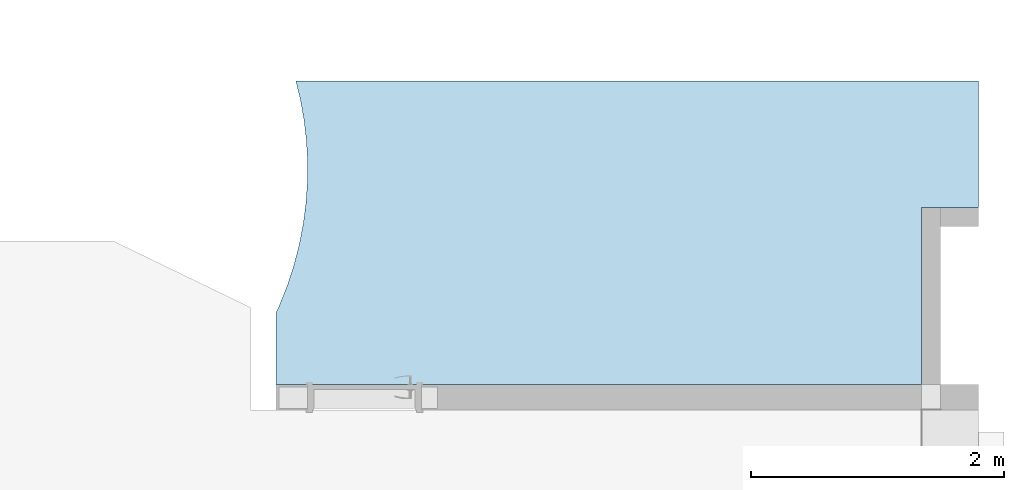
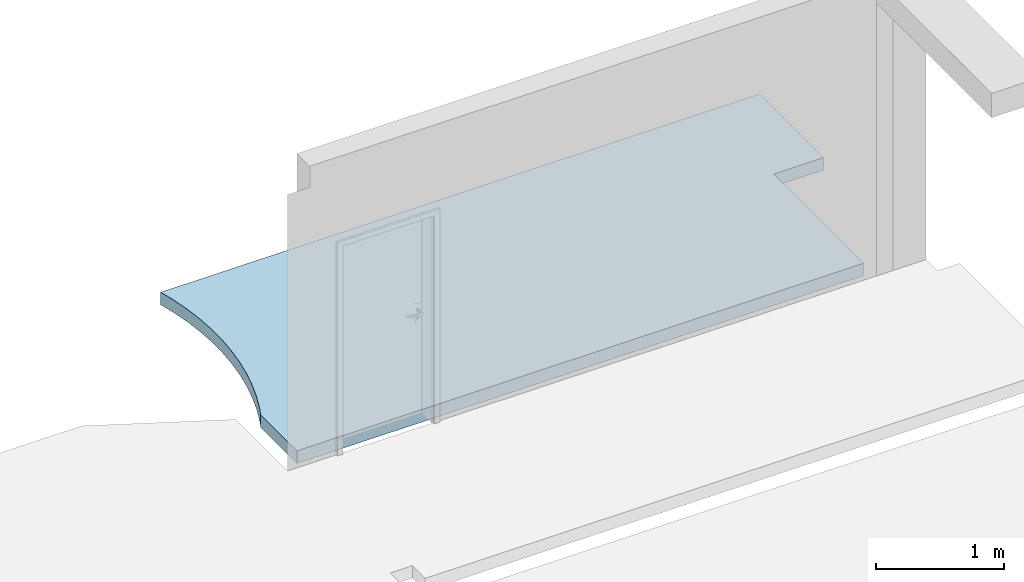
# One storey, part 4 of 9: 1 slab.
"""IFC4 building model written with IfcOpenShell, lengths in millimetres."""

import ifcopenshell
import ifcopenshell.guid

model = None  # the IFC model being written
_history = None  # IfcOwnerHistory: only IFC2X3 demands one
_inside = {}  # id of a spatial element -> (the spatial element, [elements in it])
_under = {}  # id of a project, library or spatial element -> (it, [spatial elements below it])
_declared = {}  # id of a project -> (the project, [libraries it declares])
_typed = {}  # id of a type object -> (the type object, [elements of that type])
_made_of = {}  # id of a material, layer set ... -> (it, [elements and type objects made of it])


def new_model(schema):
    """Start an empty IFC model of exactly this schema.

    Asked for "IFC4X3", IfcOpenShell would pick the latest addendum, in which some entities
    have other attributes; the version numbers below select the first issue.
    IFC2X3 requires an IfcOwnerHistory on every rooted entity: one is made here for all.
    """
    global model, _history
    if schema == "IFC4X3":
        model = ifcopenshell.file(schema_version=(4, 3, 0, 0))
    else:
        model = ifcopenshell.file(schema=schema)
    _inside.clear()
    _under.clear()
    _declared.clear()
    _typed.clear()
    _made_of.clear()
    _history = None
    if model.schema == "IFC2X3":
        org = make("IfcOrganization", Name="unknown")
        user = make(
            "IfcPersonAndOrganization",
            ThePerson=make("IfcPerson", FamilyName="unknown"),
            TheOrganization=org,
        )
        app = make(
            "IfcApplication",
            ApplicationDeveloper=org,
            Version="unknown",
            ApplicationFullName="unknown",
            ApplicationIdentifier="unknown",
        )
        _history = make(
            "IfcOwnerHistory",
            OwningUser=user,
            OwningApplication=app,
            ChangeAction="ADDED",
            CreationDate=0,
        )
    return model


def make(cls, **values):
    """One entity of the class cls with the attributes given. An attribute that is None is left unset."""
    return model.create_entity(
        cls, **{name: value for name, value in values.items() if value is not None}
    )


def entity(cls, *values):
    """Any entity or typed value of the class cls, its attributes in the order of the schema. None: left unset."""
    e = model.create_entity(cls)
    for i, value in enumerate(values):
        if value is not None:
            e[i] = value
    return e


def rooted(cls, **values):
    """An entity with a GlobalId (a new one), such as an element, a storey or a relation."""
    return make(cls, GlobalId=ifcopenshell.guid.new(), OwnerHistory=_history, **values)


def si_unit(unit_type, name, prefix=None):
    """IfcSIUnit, for example si_unit("LENGTHUNIT", "METRE", prefix="MILLI")."""
    return make("IfcSIUnit", UnitType=unit_type, Prefix=prefix, Name=name)


def converted_unit(unit_type, name, factor, base, dimensions=None, offset=None):
    """IfcConversionBasedUnit, such as the inch: factor (a typed value) times the base unit."""
    return make(
        "IfcConversionBasedUnit"
        if offset is None
        else "IfcConversionBasedUnitWithOffset",
        ConversionOffset=offset,
        Dimensions=None
        if dimensions is None
        else entity("IfcDimensionalExponents", *dimensions),
        UnitType=unit_type,
        Name=name,
        ConversionFactor=make(
            "IfcMeasureWithUnit", ValueComponent=factor, UnitComponent=base
        ),
    )


def derived_unit(unit_type, elements):
    """IfcDerivedUnit: a product of units, each with its exponent."""
    return make(
        "IfcDerivedUnit",
        Elements=[
            make("IfcDerivedUnitElement", Unit=unit, Exponent=power)
            for unit, power in elements
        ],
        UnitType=unit_type,
    )


def assignment(units):
    """IfcUnitAssignment: the units of a project."""
    return None if units is None else make("IfcUnitAssignment", Units=units)


def point(xyz):
    """IfcCartesianPoint."""
    return None if xyz is None else make("IfcCartesianPoint", Coordinates=xyz)


def direction(xyz):
    """IfcDirection."""
    return None if xyz is None else make("IfcDirection", DirectionRatios=xyz)


def frame(location, z_axis=None, x_axis=None):
    """IfcAxis2Placement3D, a coordinate frame: its origin and axes. An axis left out is left unset."""
    return make(
        "IfcAxis2Placement3D",
        Location=point(location),
        Axis=direction(z_axis),
        RefDirection=direction(x_axis),
    )


def origin_with_axes():
    """The frame at (0, 0, 0) with the z axis (0, 0, 1) and the x axis (1, 0, 0) written out."""
    return frame((0.0, 0.0, 0.0), z_axis=(0.0, 0.0, 1.0), x_axis=(1.0, 0.0, 0.0))


def place(relative_to, where):
    """IfcLocalPlacement: puts the frame where relative to a parent placement (None: the world)."""
    return make(
        "IfcLocalPlacement", PlacementRelTo=relative_to, RelativePlacement=where
    )


def context(
    kind, dimensions, precision=None, world=None, true_north=None, identifier=None
):
    """IfcGeometricRepresentationContext, for example the 3D "Model" context."""
    return make(
        "IfcGeometricRepresentationContext",
        ContextIdentifier=identifier,
        ContextType=kind,
        CoordinateSpaceDimension=dimensions,
        Precision=precision,
        WorldCoordinateSystem=world,
        TrueNorth=true_north,
    )


def subcontext(parent, identifier, kind, view, scale=None):
    """IfcGeometricRepresentationSubContext, for example "Body" below "Model"."""
    return make(
        "IfcGeometricRepresentationSubContext",
        ContextIdentifier=identifier,
        ContextType=kind,
        ParentContext=parent,
        TargetScale=scale,
        TargetView=view,
    )


def project(units=None, contexts=None):
    """IfcProject with its units and contexts."""
    return rooted(
        "IfcProject",
        Name="project",
        RepresentationContexts=contexts,
        UnitsInContext=assignment(units),
    )


def spatial(cls, under=None, at=None, **own):
    """A site, building, storey or space (cls), placed at a placement, below another one or the project."""
    s = rooted(cls, ObjectPlacement=at, **own)
    if under is not None:
        _under.setdefault(under.id(), (under, []))[1].append(s)
    return s


def point_list(points):
    """IfcCartesianPointList2D or 3D."""
    cls = (
        "IfcCartesianPointList2D" if len(points[0]) == 2 else "IfcCartesianPointList3D"
    )
    return make(cls, CoordList=points)


def polygons(points, faces, closed=None, point_numbers=None):
    """IfcPolygonalFaceSet: a face is its outer loop, then its inner loops; points numbered from 1."""
    made = []
    for loops in faces:
        if len(loops) == 1:
            made.append(make("IfcIndexedPolygonalFace", CoordIndex=loops[0]))
        else:
            made.append(
                make(
                    "IfcIndexedPolygonalFaceWithVoids",
                    CoordIndex=loops[0],
                    InnerCoordIndices=loops[1:],
                )
            )
    return make(
        "IfcPolygonalFaceSet",
        Coordinates=point_list(points),
        Closed=closed,
        Faces=made,
        PnIndex=point_numbers,
    )


def shape(context_of_items, identifier, shape_type, items):
    """IfcShapeRepresentation: the items that make up one representation, for example the "Body"."""
    return make(
        "IfcShapeRepresentation",
        ContextOfItems=context_of_items,
        RepresentationIdentifier=identifier,
        RepresentationType=shape_type,
        Items=items,
    )


def material(Name=None, Category=None):
    """IfcMaterial."""
    return make("IfcMaterial", Name=Name, Category=Category)


def constituent(of_material, Name=None, Category=None, fraction=None):
    """IfcMaterialConstituent: one of the materials an element consists of."""
    return make(
        "IfcMaterialConstituent",
        Name=Name,
        Material=of_material,
        Fraction=fraction,
        Category=Category,
    )


def constituent_set(constituents=None, Name=None):
    """IfcMaterialConstituentSet."""
    return make(
        "IfcMaterialConstituentSet", Name=Name, MaterialConstituents=constituents
    )


def made_of(thing, what):
    """Note that an element or type object is made of a material, layer set ...; save() writes the relation."""
    if what is not None:
        _made_of.setdefault(what.id(), (what, []))[1].append(thing)
    return thing


def type_object(cls, material=None, **own):
    """A type object (cls), such as IfcWallType, which elements share."""
    return made_of(rooted(cls, **own), material)


def element(
    cls,
    number,
    at=None,
    inside=None,
    cuts=None,
    type_object=None,
    material=None,
    context=None,
    identifier="Body",
    shape_type=None,
    held_by="IfcProductDefinitionShape",
    body=None,
    shapes=None,
    **own,
):
    """One element of the class cls, such as IfcWall. Its Tag is "e" and its number.

    at: its placement. inside: the storey or other place that contains it. cuts: it is an
    opening in that element (IfcRelVoidsElement). A single representation is given by context,
    identifier, shape_type and body (its items); several are given by shapes. held_by: the class
    of the entity that holds the representations. save() writes the other relations.
    """
    e = rooted(cls, Tag="e%d" % number, ObjectPlacement=at, **own)
    if body is not None:
        shapes = [shape(context, identifier, shape_type, body)]
    if shapes is not None:
        e.Representation = make(held_by, Representations=shapes)
    if inside is not None:
        _inside.setdefault(inside.id(), (inside, []))[1].append(e)
    if cuts is not None:
        rooted(
            "IfcRelVoidsElement", RelatingBuildingElement=cuts, RelatedOpeningElement=e
        )
    if type_object is not None:
        _typed.setdefault(type_object.id(), (type_object, []))[1].append(e)
    return made_of(e, material)


def aggregate(whole, parts):
    """IfcRelAggregates: a whole, such as a stair, and the parts it consists of."""
    return rooted("IfcRelAggregates", RelatingObject=whole, RelatedObjects=parts)


def save(model, path):
    """Write the relations noted so far, then the file.

    IfcRelAggregates (storeys below a building ...), IfcRelContainedInSpatialStructure (elements
    in a storey), IfcRelDefinesByType, IfcRelAssociatesMaterial and IfcRelDeclares: one each for
    every whole, place, type object, material and project.
    """
    for whole, parts in _under.values():
        aggregate(whole, parts)
    for where, things in _inside.values():
        rooted(
            "IfcRelContainedInSpatialStructure",
            RelatedElements=things,
            RelatingStructure=where,
        )
    for kind, things in _typed.values():
        rooted("IfcRelDefinesByType", RelatedObjects=things, RelatingType=kind)
    for what, things in _made_of.values():
        rooted("IfcRelAssociatesMaterial", RelatedObjects=things, RelatingMaterial=what)
    for by, libraries in _declared.values():
        rooted("IfcRelDeclares", RelatingContext=by, RelatedDefinitions=libraries)
    model.write(path)


model = new_model("IFC4")

# Units and contexts
model_context = context("Model", 3, precision=0.01, world=origin_with_axes(), true_north=direction((0.0, 1.0)))
body_context = subcontext(model_context, "Body", "Model", "MODEL_VIEW")
ifc_project = project(units=[si_unit("LENGTHUNIT", "METRE", prefix="MILLI"), si_unit("AREAUNIT", "SQUARE_METRE"), si_unit("VOLUMEUNIT", "CUBIC_METRE"), converted_unit("PLANEANGLEUNIT", "DEGREE", entity("IfcPlaneAngleMeasure", 0.0174532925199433), si_unit("PLANEANGLEUNIT", "RADIAN"), dimensions=[0, 0, 0, 0, 0, 0, 0]), converted_unit("TIMEUNIT", "Year", entity("IfcTimeMeasure", 31557600.0), si_unit("TIMEUNIT", "SECOND"), dimensions=[0, 0, 1, 0, 0, 0, 0]), si_unit("MASSUNIT", "GRAM", prefix="KILO"), si_unit("THERMODYNAMICTEMPERATUREUNIT", "DEGREE_CELSIUS"), si_unit("LUMINOUSINTENSITYUNIT", "LUMEN"), si_unit("ENERGYUNIT", "JOULE", prefix="MEGA"), derived_unit("THERMALCONDUCTANCEUNIT", [(si_unit("POWERUNIT", "WATT"), 1), (si_unit("LENGTHUNIT", "METRE"), -1), (si_unit("THERMODYNAMICTEMPERATUREUNIT", "KELVIN"), -1)]), derived_unit("SPECIFICHEATCAPACITYUNIT", [(si_unit("ENERGYUNIT", "JOULE"), 1), (si_unit("MASSUNIT", "GRAM", prefix="KILO"), -1), (si_unit("THERMODYNAMICTEMPERATUREUNIT", "KELVIN"), -1)]), derived_unit("MASSDENSITYUNIT", [(si_unit("MASSUNIT", "GRAM", prefix="KILO"), 1), (si_unit("VOLUMEUNIT", "CUBIC_METRE"), -1)])], contexts=[model_context])

# Site, building, storey
site_placement = place(None, origin_with_axes())
site = spatial("IfcSite", under=ifc_project, at=site_placement, Name="Exteriér", CompositionType="ELEMENT")
building_placement = place(site_placement, origin_with_axes())
building = spatial("IfcBuilding", under=site, at=building_placement, Name="Univerzitní lezecké centrum", CompositionType="ELEMENT")
storey_placement = place(building_placement, origin_with_axes())
storey = spatial("IfcBuildingStorey", under=building, at=storey_placement, Name="1.NP", CompositionType="ELEMENT", Elevation=0.0)

# Slab
ifc_material_1 = material(Name="Keramická dlažba 30x30")
ifc_constituent_1 = constituent(ifc_material_1, Name="Keramická dlažba 30x30")
ifc_material_2 = material(Name="Lepicí tmel na dlažbu a obklady")
ifc_constituent_2 = constituent(ifc_material_2, Name="Lepicí tmel na dlažbu a obklady")
ifc_material_3 = material(Name="Samonivelační stěrková hmota")
ifc_constituent_3 = constituent(ifc_material_3, Name="Samonivelační stěrková hmota")
ifc_material_4 = material(Name="Betonová mazanina")
ifc_constituent_4 = constituent(ifc_material_4, Name="Betonová mazanina")
ifc_material_5 = material(Name="PE fólie")
ifc_constituent_5 = constituent(ifc_material_5, Name="PE fólie")
ifc_material_6 = material(Name="Akustická izolace - EPS")
ifc_constituent_6 = constituent(ifc_material_6, Name="Akustická izolace - EPS")
ifc_constituent_set = constituent_set(constituents=[ifc_constituent_1, ifc_constituent_2, ifc_constituent_3, ifc_constituent_4, ifc_constituent_5, ifc_constituent_6], Name="!P04 Podlaha v patře - keramická dlažba 30x30")
slab_type = type_object("IfcSlabType", Name="!P04 Podlaha v patře - keramická dlažba 30x30 120", PredefinedType="FLOOR")
slab_placement = place(storey_placement, frame((5057.532610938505, 4399.999973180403, 0.0), z_axis=(0.0, 0.0, 1.0), x_axis=(1.0, 0.0, 0.0)))
element("IfcSlab", 1, at=slab_placement, inside=storey, type_object=slab_type, material=ifc_constituent_set, Name="P03", PredefinedType="FLOOR", context=body_context, shape_type="Tessellation", body=[
    polygons([(4942.537143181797, -2399.519217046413, 0.0), (4942.442440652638, -999.5192207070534, 0.0), (4942.575357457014, -999.5192207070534, 0.0), (5392.319037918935, -999.5192207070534, 0.0), (5392.319037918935, 0.0, 0.0), (0.0, 0.0, 0.0), (35.97096868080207, -145.1210913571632, 0.0), (64.88131148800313, -307.3207028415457, 0.0), (83.84954743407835, -470.9811070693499, 0.0), (92.80511343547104, -635.493476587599, 0.0), (91.71469419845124, -800.2458145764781, 0.0), (80.58234615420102, -964.6252315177, 0.0), (59.44948236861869, -1128.020225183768, 0.0), (28.3947184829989, -1289.822955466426, 0.0), (-12.46641974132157, -1449.431505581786, 0.0), (-62.98192618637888, -1606.252121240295, 0.0), (-122.963879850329, -1759.701419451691, 0.0), (-157.5765118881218, -1834.454989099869, 0.0), (-157.5144389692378, -2399.519217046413, 0.0), (4942.537143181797, -2399.519217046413, -9.999999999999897), (4942.442440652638, -999.5192207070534, -9.999999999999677), (4942.575357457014, -999.5192207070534, -9.999999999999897), (5392.319037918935, -999.5192207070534, -9.999999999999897), (5392.319037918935, 0.0, -9.999999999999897), (0.0, 0.0, -9.999999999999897), (35.97096868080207, -145.1210913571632, -9.999999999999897), (64.88131148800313, -307.3207028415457, -9.999999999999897), (83.84954743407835, -470.9811070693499, -9.999999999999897), (92.80511343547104, -635.493476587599, -9.999999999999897), (91.71469419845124, -800.2458145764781, -9.999999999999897), (80.58234615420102, -964.6252315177, -9.999999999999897), (59.44948236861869, -1128.020225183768, -9.999999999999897), (28.3947184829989, -1289.822955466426, -9.999999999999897), (-12.46641974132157, -1449.431505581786, -9.999999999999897), (-62.98192618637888, -1606.252121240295, -9.999999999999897), (-122.963879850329, -1759.701419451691, -9.999999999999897), (-157.5765118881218, -1834.454989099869, -9.999999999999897), (-157.5144389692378, -2399.519217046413, -9.999999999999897)], [[[1, 2, 3, 4, 5, 6, 7, 8, 9, 10, 11, 12, 13, 14, 15, 16, 17, 18, 19]], [[2, 1, 20, 21]], [[22, 3, 2, 21]], [[3, 22, 23, 4]], [[23, 24, 5, 4]], [[24, 25, 6, 5]], [[25, 26, 7, 6]], [[26, 27, 8, 7]], [[27, 28, 9, 8]], [[28, 29, 10, 9]], [[29, 30, 11, 10]], [[30, 31, 12, 11]], [[31, 32, 13, 12]], [[32, 33, 14, 13]], [[33, 34, 15, 14]], [[34, 35, 16, 15]], [[35, 36, 17, 16]], [[36, 37, 18, 17]], [[37, 38, 19, 18]], [[20, 1, 19, 38]], [[21, 20, 38, 37, 36, 35, 34, 33, 32, 31, 30, 29, 28, 27, 26, 25, 24, 23, 22]]], closed=True),
    polygons([(4942.537143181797, -2399.519217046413, -9.999999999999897), (4942.442440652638, -999.5192207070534, -9.999999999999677), (4942.575357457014, -999.5192207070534, -9.999999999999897), (5392.319037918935, -999.5192207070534, -9.999999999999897), (5392.319037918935, 0.0, -9.999999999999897), (0.0, 0.0, -9.999999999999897), (35.97096868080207, -145.1210913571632, -9.999999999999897), (64.88131148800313, -307.3207028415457, -9.999999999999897), (83.84954743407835, -470.9811070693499, -9.999999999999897), (92.80511343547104, -635.493476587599, -9.999999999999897), (91.71469419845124, -800.2458145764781, -9.999999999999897), (80.58234615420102, -964.6252315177, -9.999999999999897), (59.44948236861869, -1128.020225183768, -9.999999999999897), (28.3947184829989, -1289.822955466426, -9.999999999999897), (-12.46641974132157, -1449.431505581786, -9.999999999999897), (-62.98192618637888, -1606.252121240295, -9.999999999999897), (-122.963879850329, -1759.701419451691, -9.999999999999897), (-157.5765118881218, -1834.454989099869, -9.999999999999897), (-157.5144389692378, -2399.519217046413, -9.999999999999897), (4942.537143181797, -2399.519217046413, -13.00000000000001), (4942.442440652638, -999.5192207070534, -12.99999999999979), (4942.575357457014, -999.5192207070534, -13.00000000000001), (5392.319037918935, -999.5192207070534, -13.00000000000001), (5392.319037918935, 0.0, -13.00000000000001), (0.0, 0.0, -13.00000000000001), (35.97096868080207, -145.1210913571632, -13.00000000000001), (64.88131148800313, -307.3207028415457, -13.00000000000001), (83.84954743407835, -470.9811070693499, -13.00000000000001), (92.80511343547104, -635.493476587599, -13.00000000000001), (91.71469419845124, -800.2458145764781, -13.00000000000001), (80.58234615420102, -964.6252315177, -13.00000000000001), (59.44948236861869, -1128.020225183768, -13.00000000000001), (28.3947184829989, -1289.822955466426, -13.00000000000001), (-12.46641974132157, -1449.431505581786, -13.00000000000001), (-62.98192618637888, -1606.252121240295, -13.00000000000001), (-122.963879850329, -1759.701419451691, -13.00000000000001), (-157.5765118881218, -1834.454989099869, -13.00000000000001), (-157.5144389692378, -2399.519217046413, -13.00000000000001)], [[[1, 2, 3, 4, 5, 6, 7, 8, 9, 10, 11, 12, 13, 14, 15, 16, 17, 18, 19]], [[2, 1, 20, 21]], [[22, 3, 2, 21]], [[3, 22, 23, 4]], [[23, 24, 5, 4]], [[24, 25, 6, 5]], [[25, 26, 7, 6]], [[26, 27, 8, 7]], [[27, 28, 9, 8]], [[28, 29, 10, 9]], [[29, 30, 11, 10]], [[30, 31, 12, 11]], [[31, 32, 13, 12]], [[32, 33, 14, 13]], [[33, 34, 15, 14]], [[34, 35, 16, 15]], [[35, 36, 17, 16]], [[36, 37, 18, 17]], [[37, 38, 19, 18]], [[20, 1, 19, 38]], [[21, 20, 38, 37, 36, 35, 34, 33, 32, 31, 30, 29, 28, 27, 26, 25, 24, 23, 22]]], closed=True),
    polygons([(4942.537143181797, -2399.519217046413, -13.00000000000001), (4942.442440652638, -999.5192207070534, -12.99999999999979), (4942.575357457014, -999.5192207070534, -13.00000000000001), (5392.319037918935, -999.5192207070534, -13.00000000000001), (5392.319037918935, 0.0, -13.00000000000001), (0.0, 0.0, -13.00000000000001), (35.97096868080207, -145.1210913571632, -13.00000000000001), (64.88131148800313, -307.3207028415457, -13.00000000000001), (83.84954743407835, -470.9811070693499, -13.00000000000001), (92.80511343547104, -635.493476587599, -13.00000000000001), (91.71469419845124, -800.2458145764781, -13.00000000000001), (80.58234615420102, -964.6252315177, -13.00000000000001), (59.44948236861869, -1128.020225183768, -13.00000000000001), (28.3947184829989, -1289.822955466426, -13.00000000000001), (-12.46641974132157, -1449.431505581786, -13.00000000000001), (-62.98192618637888, -1606.252121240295, -13.00000000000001), (-122.963879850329, -1759.701419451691, -13.00000000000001), (-157.5765118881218, -1834.454989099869, -13.00000000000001), (-157.5144389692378, -2399.519217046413, -13.00000000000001), (4942.537143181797, -2399.519217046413, -15.9999999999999), (4942.442440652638, -999.5192207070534, -15.9999999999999), (4942.575357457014, -999.5192207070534, -15.9999999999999), (5392.319037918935, -999.5192207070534, -15.9999999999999), (5392.319037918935, 0.0, -15.9999999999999), (0.0, 0.0, -15.9999999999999), (35.97096868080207, -145.1210913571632, -15.9999999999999), (64.88131148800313, -307.3207028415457, -15.9999999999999), (83.84954743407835, -470.9811070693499, -15.9999999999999), (92.80511343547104, -635.493476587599, -15.9999999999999), (91.71469419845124, -800.2458145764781, -15.9999999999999), (80.58234615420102, -964.6252315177, -15.9999999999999), (59.44948236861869, -1128.020225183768, -15.9999999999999), (28.3947184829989, -1289.822955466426, -15.9999999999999), (-12.46641974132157, -1449.431505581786, -15.9999999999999), (-62.98192618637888, -1606.252121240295, -15.9999999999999), (-122.963879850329, -1759.701419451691, -15.9999999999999), (-157.5765118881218, -1834.454989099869, -15.9999999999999), (-157.5144389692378, -2399.519217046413, -15.9999999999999)], [[[1, 2, 3, 4, 5, 6, 7, 8, 9, 10, 11, 12, 13, 14, 15, 16, 17, 18, 19]], [[2, 1, 20, 21]], [[22, 3, 2, 21]], [[3, 22, 23, 4]], [[23, 24, 5, 4]], [[24, 25, 6, 5]], [[25, 26, 7, 6]], [[26, 27, 8, 7]], [[27, 28, 9, 8]], [[28, 29, 10, 9]], [[29, 30, 11, 10]], [[30, 31, 12, 11]], [[31, 32, 13, 12]], [[32, 33, 14, 13]], [[33, 34, 15, 14]], [[34, 35, 16, 15]], [[35, 36, 17, 16]], [[36, 37, 18, 17]], [[37, 38, 19, 18]], [[20, 1, 19, 38]], [[21, 20, 38, 37, 36, 35, 34, 33, 32, 31, 30, 29, 28, 27, 26, 25, 24, 23, 22]]], closed=True),
    polygons([(4942.537143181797, -2399.519217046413, -15.9999999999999), (4942.442440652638, -999.5192207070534, -15.9999999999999), (4942.575357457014, -999.5192207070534, -15.9999999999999), (5392.319037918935, -999.5192207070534, -15.9999999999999), (5392.319037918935, 0.0, -15.9999999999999), (0.0, 0.0, -15.9999999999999), (35.97096868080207, -145.1210913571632, -15.9999999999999), (64.88131148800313, -307.3207028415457, -15.9999999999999), (83.84954743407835, -470.9811070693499, -15.9999999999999), (92.80511343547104, -635.493476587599, -15.9999999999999), (91.71469419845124, -800.2458145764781, -15.9999999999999), (80.58234615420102, -964.6252315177, -15.9999999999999), (59.44948236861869, -1128.020225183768, -15.9999999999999), (28.3947184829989, -1289.822955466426, -15.9999999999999), (-12.46641974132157, -1449.431505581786, -15.9999999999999), (-62.98192618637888, -1606.252121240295, -15.9999999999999), (-122.963879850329, -1759.701419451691, -15.9999999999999), (-157.5765118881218, -1834.454989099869, -15.9999999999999), (-157.5144389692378, -2399.519217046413, -15.9999999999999), (4942.537143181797, -2399.519217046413, -79.00000000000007), (4942.442440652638, -999.5192207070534, -79.00000000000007), (4942.575357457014, -999.5192207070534, -79.00000000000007), (5392.319037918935, -999.5192207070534, -79.00000000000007), (5392.319037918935, 0.0, -79.00000000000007), (0.0, 0.0, -79.00000000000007), (35.97096868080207, -145.1210913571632, -79.00000000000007), (64.88131148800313, -307.3207028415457, -79.00000000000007), (83.84954743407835, -470.9811070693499, -79.00000000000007), (92.80511343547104, -635.493476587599, -79.00000000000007), (91.71469419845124, -800.2458145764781, -79.00000000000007), (80.58234615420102, -964.6252315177, -79.00000000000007), (59.44948236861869, -1128.020225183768, -79.00000000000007), (28.3947184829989, -1289.822955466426, -79.00000000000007), (-12.46641974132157, -1449.431505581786, -79.00000000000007), (-62.98192618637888, -1606.252121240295, -79.00000000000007), (-122.963879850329, -1759.701419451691, -79.00000000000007), (-157.5765118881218, -1834.454989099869, -79.00000000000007), (-157.5144389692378, -2399.519217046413, -79.00000000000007)], [[[1, 2, 3, 4, 5, 6, 7, 8, 9, 10, 11, 12, 13, 14, 15, 16, 17, 18, 19]], [[2, 1, 20, 21]], [[22, 3, 2, 21]], [[3, 22, 23, 4]], [[23, 24, 5, 4]], [[24, 25, 6, 5]], [[25, 26, 7, 6]], [[26, 27, 8, 7]], [[27, 28, 9, 8]], [[28, 29, 10, 9]], [[29, 30, 11, 10]], [[30, 31, 12, 11]], [[31, 32, 13, 12]], [[32, 33, 14, 13]], [[33, 34, 15, 14]], [[34, 35, 16, 15]], [[35, 36, 17, 16]], [[36, 37, 18, 17]], [[37, 38, 19, 18]], [[20, 1, 19, 38]], [[21, 20, 38, 37, 36, 35, 34, 33, 32, 31, 30, 29, 28, 27, 26, 25, 24, 23, 22]]], closed=True),
    polygons([(4942.537143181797, -2399.519217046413, -79.00000000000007), (4942.442440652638, -999.5192207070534, -79.00000000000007), (4942.575357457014, -999.5192207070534, -79.00000000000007), (5392.319037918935, -999.5192207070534, -79.00000000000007), (5392.319037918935, 0.0, -79.00000000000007), (0.0, 0.0, -79.00000000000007), (35.97096868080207, -145.1210913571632, -79.00000000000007), (64.88131148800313, -307.3207028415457, -79.00000000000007), (83.84954743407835, -470.9811070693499, -79.00000000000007), (92.80511343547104, -635.493476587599, -79.00000000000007), (91.71469419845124, -800.2458145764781, -79.00000000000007), (80.58234615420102, -964.6252315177, -79.00000000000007), (59.44948236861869, -1128.020225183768, -79.00000000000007), (28.3947184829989, -1289.822955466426, -79.00000000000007), (-12.46641974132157, -1449.431505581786, -79.00000000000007), (-62.98192618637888, -1606.252121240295, -79.00000000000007), (-122.963879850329, -1759.701419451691, -79.00000000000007), (-157.5765118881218, -1834.454989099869, -79.00000000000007), (-157.5144389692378, -2399.519217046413, -79.00000000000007), (4942.537143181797, -2399.519217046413, -79.50000000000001), (4942.442440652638, -999.5192207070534, -79.50000000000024), (4942.575357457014, -999.5192207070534, -79.50000000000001), (5392.319037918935, -999.5192207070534, -79.50000000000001), (5392.319037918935, 0.0, -79.50000000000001), (0.0, 0.0, -79.50000000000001), (35.97096868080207, -145.1210913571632, -79.50000000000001), (64.88131148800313, -307.3207028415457, -79.50000000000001), (83.84954743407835, -470.9811070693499, -79.50000000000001), (92.80511343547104, -635.493476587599, -79.50000000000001), (91.71469419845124, -800.2458145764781, -79.50000000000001), (80.58234615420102, -964.6252315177, -79.50000000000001), (59.44948236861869, -1128.020225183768, -79.50000000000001), (28.3947184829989, -1289.822955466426, -79.50000000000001), (-12.46641974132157, -1449.431505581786, -79.50000000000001), (-62.98192618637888, -1606.252121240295, -79.50000000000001), (-122.963879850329, -1759.701419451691, -79.50000000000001), (-157.5765118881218, -1834.454989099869, -79.50000000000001), (-157.5144389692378, -2399.519217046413, -79.50000000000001)], [[[1, 2, 3, 4, 5, 6, 7, 8, 9, 10, 11, 12, 13, 14, 15, 16, 17, 18, 19]], [[2, 1, 20, 21]], [[22, 3, 2, 21]], [[3, 22, 23, 4]], [[23, 24, 5, 4]], [[24, 25, 6, 5]], [[25, 26, 7, 6]], [[26, 27, 8, 7]], [[27, 28, 9, 8]], [[28, 29, 10, 9]], [[29, 30, 11, 10]], [[30, 31, 12, 11]], [[31, 32, 13, 12]], [[32, 33, 14, 13]], [[33, 34, 15, 14]], [[34, 35, 16, 15]], [[35, 36, 17, 16]], [[36, 37, 18, 17]], [[37, 38, 19, 18]], [[20, 1, 19, 38]], [[21, 20, 38, 37, 36, 35, 34, 33, 32, 31, 30, 29, 28, 27, 26, 25, 24, 23, 22]]], closed=True),
    polygons([(4942.537143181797, -2399.519217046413, -79.50000000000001), (4942.442440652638, -999.5192207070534, -79.50000000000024), (4942.575357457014, -999.5192207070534, -79.50000000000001), (5392.319037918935, -999.5192207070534, -79.50000000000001), (5392.319037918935, 0.0, -79.50000000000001), (0.0, 0.0, -79.50000000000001), (35.97096868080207, -145.1210913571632, -79.50000000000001), (64.88131148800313, -307.3207028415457, -79.50000000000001), (83.84954743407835, -470.9811070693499, -79.50000000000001), (92.80511343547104, -635.493476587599, -79.50000000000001), (91.71469419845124, -800.2458145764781, -79.50000000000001), (80.58234615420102, -964.6252315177, -79.50000000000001), (59.44948236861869, -1128.020225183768, -79.50000000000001), (28.3947184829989, -1289.822955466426, -79.50000000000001), (-12.46641974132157, -1449.431505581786, -79.50000000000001), (-62.98192618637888, -1606.252121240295, -79.50000000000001), (-122.963879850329, -1759.701419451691, -79.50000000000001), (-157.5765118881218, -1834.454989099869, -79.50000000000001), (-157.5144389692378, -2399.519217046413, -79.50000000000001), (4942.537143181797, -2399.519217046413, -119.5000000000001), (4942.442440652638, -999.5192207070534, -119.5000000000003), (4942.575357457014, -999.5192207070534, -119.5000000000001), (5392.319037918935, -999.5192207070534, -119.5000000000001), (5392.319037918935, 0.0, -119.5000000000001), (0.0, 0.0, -119.5000000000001), (35.97096868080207, -145.1210913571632, -119.5000000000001), (64.88131148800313, -307.3207028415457, -119.5000000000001), (83.84954743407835, -470.9811070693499, -119.5000000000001), (92.80511343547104, -635.493476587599, -119.5000000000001), (91.71469419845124, -800.2458145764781, -119.5000000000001), (80.58234615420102, -964.6252315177, -119.5000000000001), (59.44948236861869, -1128.020225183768, -119.5000000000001), (28.3947184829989, -1289.822955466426, -119.5000000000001), (-12.46641974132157, -1449.431505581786, -119.5000000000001), (-62.98192618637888, -1606.252121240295, -119.5000000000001), (-122.963879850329, -1759.701419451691, -119.5000000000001), (-157.5765118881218, -1834.454989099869, -119.5000000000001), (-157.5144389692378, -2399.519217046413, -119.5000000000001)], [[[1, 2, 3, 4, 5, 6, 7, 8, 9, 10, 11, 12, 13, 14, 15, 16, 17, 18, 19]], [[2, 1, 20, 21]], [[22, 3, 2, 21]], [[3, 22, 23, 4]], [[4, 23, 24, 5]], [[5, 24, 25, 6]], [[6, 25, 26, 7]], [[7, 26, 27, 8]], [[8, 27, 28, 9]], [[9, 28, 29, 10]], [[10, 29, 30, 11]], [[11, 30, 31, 12]], [[12, 31, 32, 13]], [[13, 32, 33, 14]], [[14, 33, 34, 15]], [[15, 34, 35, 16]], [[16, 35, 36, 17]], [[17, 36, 37, 18]], [[18, 37, 38, 19]], [[20, 1, 19, 38]], [[21, 20, 38, 37, 36, 35, 34, 33, 32, 31, 30, 29, 28, 27, 26, 25, 24, 23, 22]]], closed=True),
])

save(model, "model.ifc")
